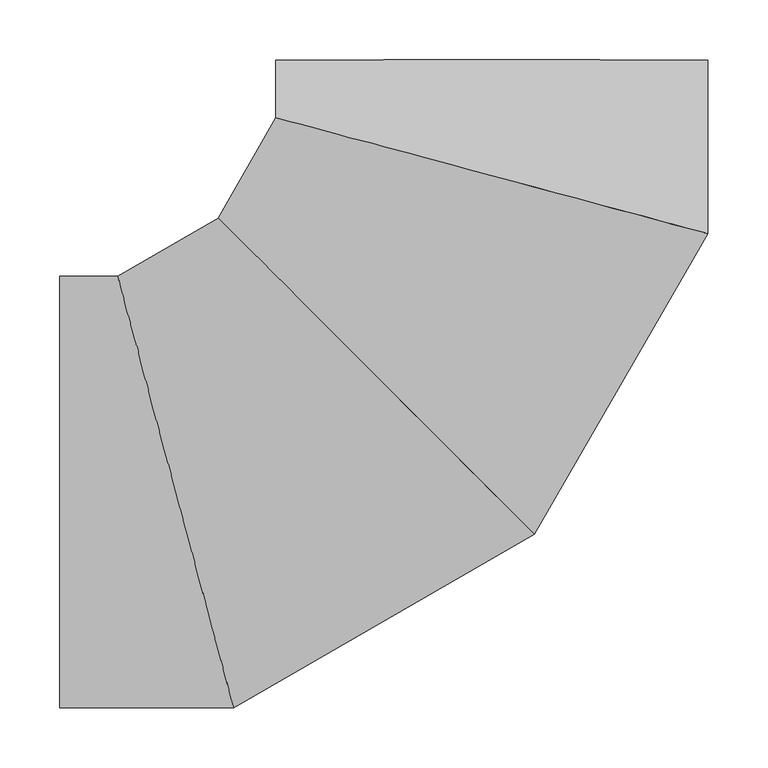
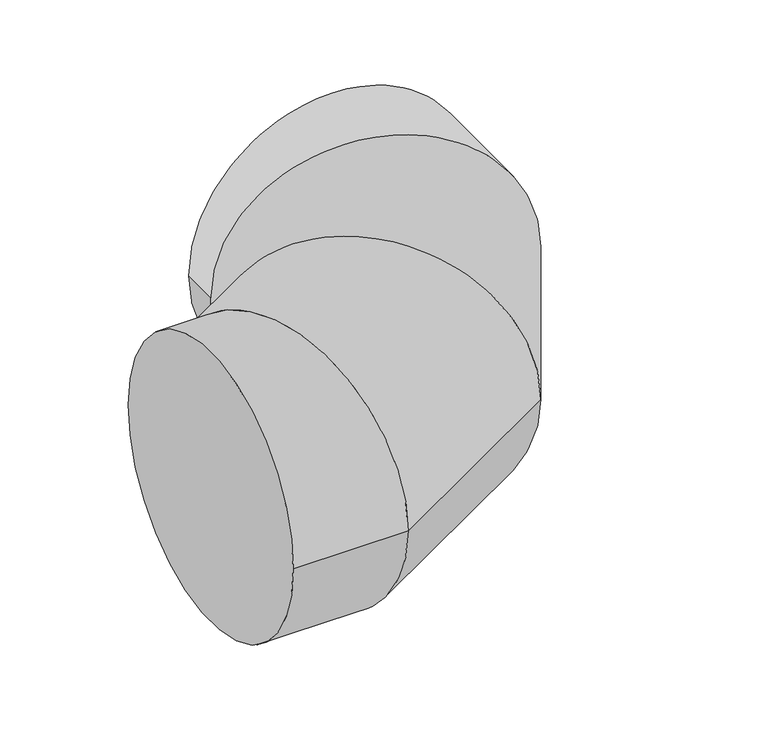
"""IFC4 building model written with IfcOpenShell, lengths in millimetres: duct fitting geometry, 17_Отвод_Заключение : 10_Отвод_3D объект."""

from ifc_helpers import new_model, si_unit, frame, origin, place, context, project, spatial, circle_curve, ellipse_curve, source, transform, mapped, element, save
from ifc_brep_helpers import plane_surface, cylinder_surface, advanced_brep


def duct_fitting_00318b5b(model_context):
    return source(origin(), model_context, "Body", "AdvancedBrep", [
        advanced_brep(
        [(-360.0, -180.0, 0.0), (-360.0, 180.0, 0.0), (-215.3074361, -180.0, 0.0), (-311.7691454, 180.0, 0.0), (35.3074361, -35.3074361, 0.0), (-228.2308546, 228.2308546, 0.0), (180.0, 215.3074361, 0.0), (-180.0, 311.7691454, 0.0), (180.0, 360.0, 0.0), (-180.0, 360.0, 0.0)],
        [
            (0, 1, circle_curve(frame((-360.0, 0.0, 0.0), z_axis=(-1.0, 0.0, 0.0), x_axis=(0.0, 1.0, 0.0)), 180.0)),
            (1, 0, circle_curve(frame((-360.0, 0.0, 0.0), z_axis=(-1.0, 0.0, 0.0), x_axis=(0.0, 1.0, 0.0)), 180.0)),
            (0, 2),
            (2, 3, ellipse_curve(frame((-263.5382907, 0.0, 0.0), z_axis=(-0.9659258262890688, -0.2588190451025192, 0.0), x_axis=(-0.258819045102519, 0.9659258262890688, 0.0)), 186.3497125, 180.0)),
            (3, 1),
            (3, 2, ellipse_curve(frame((-263.5382907, 0.0, 0.0), z_axis=(-0.9659258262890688, -0.2588190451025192, 0.0), x_axis=(-0.258819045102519, 0.9659258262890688, 0.0)), 186.3497125, 180.0)),
            (2, 4),
            (4, 5, ellipse_curve(frame((-96.4617093, 96.4617093, 0.0), z_axis=(-0.7071067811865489, -0.707106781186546, 0.0), x_axis=(-0.7071067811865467, 0.7071067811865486, 0.0)), 186.3497125, 180.0)),
            (5, 3),
            (5, 4, ellipse_curve(frame((-96.4617093, 96.4617093, 0.0), z_axis=(-0.7071067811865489, -0.707106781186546, 0.0), x_axis=(-0.7071067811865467, 0.7071067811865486, 0.0)), 186.3497125, 180.0)),
            (4, 6),
            (6, 7, ellipse_curve(frame((0.0, 263.5382907, 0.0), z_axis=(-0.2588190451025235, -0.9659258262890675, 0.0), x_axis=(-0.9659258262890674, 0.2588190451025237, 0.0)), 186.3497125, 180.0)),
            (7, 5),
            (7, 6, ellipse_curve(frame((0.0, 263.5382907, 0.0), z_axis=(-0.2588190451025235, -0.9659258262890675, 0.0), x_axis=(-0.9659258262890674, 0.2588190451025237, 0.0)), 186.3497125, 180.0)),
            (8, 9, circle_curve(frame((0.0, 360.0, 0.0), z_axis=(0.0, 1.0, 0.0), x_axis=(-1.0, 0.0, 0.0)), 180.0)),
            (9, 8, circle_curve(frame((0.0, 360.0, 0.0), z_axis=(0.0, 1.0, 0.0), x_axis=(-1.0, 0.0, 0.0)), 180.0)),
            (6, 8),
            (9, 7),
        ],
        [
            plane_surface(frame((-360.0, 0.0, 0.0), z_axis=(-1.0, 0.0, 0.0), x_axis=(0.0, 0.0, 1.0))),
            cylinder_surface(frame((-360.0, 0.0, 0.0), z_axis=(-1.0, 0.0, 0.0), x_axis=(0.0, 1.0, 0.0)), 180.0),
            cylinder_surface(frame((-263.5382907, 0.0, 0.0), z_axis=(-0.8660254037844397, -0.4999999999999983, 0.0), x_axis=(-0.4999999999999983, 0.8660254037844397, 0.0)), 180.0),
            cylinder_surface(frame((-96.4617093, 96.4617093, 0.0), z_axis=(-0.5000000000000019, -0.8660254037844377, 0.0), x_axis=(-0.8660254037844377, 0.5000000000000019, 0.0)), 180.0),
            plane_surface(frame((0.0, 360.0, 0.0), z_axis=(0.0, 1.0, 0.0), x_axis=(0.0, 0.0, 1.0))),
            cylinder_surface(frame((0.0, 263.5382907, 0.0), z_axis=(0.0, -1.0, 0.0), x_axis=(-1.0, 0.0, 0.0)), 180.0),
        ],
        [
            (0, [[1, 2]]),
            (1, [[-1, 3, 4, 5]]),
            (1, [[-2, -5, 6, -3]]),
            (2, [[-4, 7, 8, 9]]),
            (2, [[-6, -9, 10, -7]]),
            (3, [[-8, 11, 12, 13]]),
            (3, [[-10, -13, 14, -11]]),
            (4, [[15, 16]]),
            (5, [[-12, 17, -16, 18]]),
            (5, [[-14, -18, -15, -17]]),
        ],
    ),
    ])


if __name__ == "__main__":
    model = new_model("IFC4")
    model_context = context("Model", 3, world=origin())
    ifc_project = project(units=[si_unit("LENGTHUNIT", "METRE", prefix="MILLI")], contexts=[model_context])
    site = spatial("IfcSite", under=ifc_project)
    building = spatial("IfcBuilding", under=site)
    placement = place(None, origin())
    duct_fitting_shape = duct_fitting_00318b5b(model_context)
    element("IfcDuctFitting", 1, ObjectType="17_Отвод_Заключение : 10_Отвод_3D объект", at=placement, inside=building, context=model_context, shape_type="MappedRepresentation", body=[
        mapped(duct_fitting_shape, transform((0.0, 0.0, 0.0), x_axis=(1.0, 0.0, 0.0), y_axis=(0.0, 1.0, 0.0), z_axis=(0.0, 0.0, 1.0))),
    ])
    save(model, "model.ifc")
